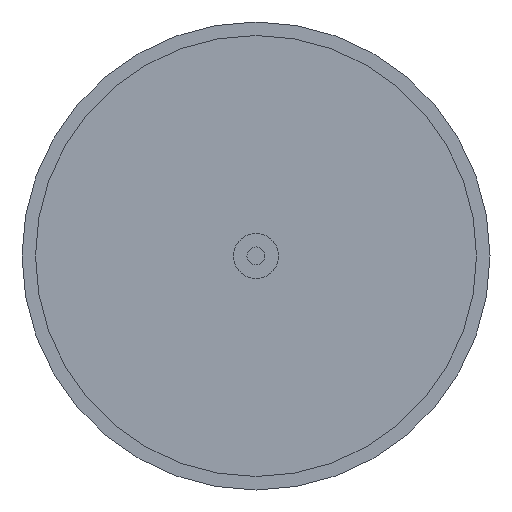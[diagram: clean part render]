
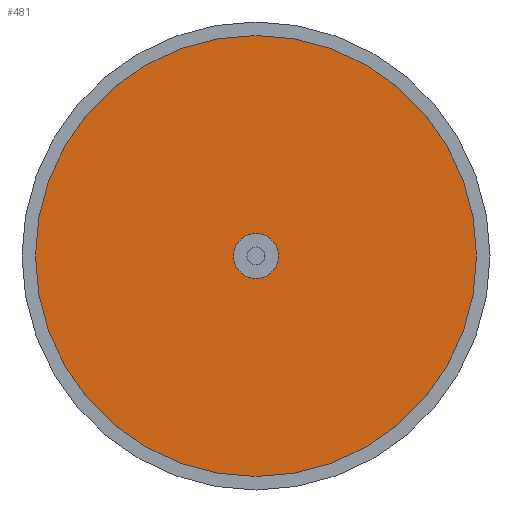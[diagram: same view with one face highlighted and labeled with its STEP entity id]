
A CAD part, front view. The second image highlights one B-rep face of the part: STEP entity #481.
In plain terms, the highlighted planar face has unit normal (0, -1, 0).
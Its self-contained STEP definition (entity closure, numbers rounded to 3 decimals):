
#5 = DIRECTION ( 'NONE',  ( 0., -1., 0. ) ) ;
#25 = CIRCLE ( 'NONE', #102, 122.5 ) ;
#26 = CARTESIAN_POINT ( 'NONE',  ( 0., -12.5, 122.5 ) ) ;
#56 = VERTEX_POINT ( 'NONE', #468 ) ;
#70 = EDGE_CURVE ( 'NONE', #56, #205, #117, .T. ) ;
#94 = DIRECTION ( 'NONE',  ( 0., 0., -1. ) ) ;
#102 = AXIS2_PLACEMENT_3D ( 'NONE', #242, #288, #422 ) ;
#108 = VERTEX_POINT ( 'NONE', #182 ) ;
#117 = CIRCLE ( 'NONE', #571, 12.5 ) ;
#162 = EDGE_CURVE ( 'NONE', #108, #540, #25, .T. ) ;
#176 = DIRECTION ( 'NONE',  ( 0., 1., 0. ) ) ;
#182 = CARTESIAN_POINT ( 'NONE',  ( 0., -12.5, -122.5 ) ) ;
#201 = DIRECTION ( 'NONE',  ( 0., 1., 0. ) ) ;
#205 = VERTEX_POINT ( 'NONE', #522 ) ;
#228 = AXIS2_PLACEMENT_3D ( 'NONE', #270, #234, #404 ) ;
#234 = DIRECTION ( 'NONE',  ( 0., -1., 0. ) ) ;
#242 = CARTESIAN_POINT ( 'NONE',  ( 0., -12.5, 0. ) ) ;
#255 = EDGE_CURVE ( 'NONE', #540, #108, #508, .T. ) ;
#270 = CARTESIAN_POINT ( 'NONE',  ( 0., -12.5, 0. ) ) ;
#277 = ORIENTED_EDGE ( 'NONE', *, *, #255, .F. ) ;
#288 = DIRECTION ( 'NONE',  ( 0., 1., 0. ) ) ;
#290 = ORIENTED_EDGE ( 'NONE', *, *, #604, .F. ) ;
#345 = FACE_OUTER_BOUND ( 'NONE', #376, .T. ) ;
#362 = AXIS2_PLACEMENT_3D ( 'NONE', #590, #176, #391 ) ;
#370 = DIRECTION ( 'NONE',  ( 0., 0., 1. ) ) ;
#372 = CIRCLE ( 'NONE', #228, 12.5 ) ;
#376 = EDGE_LOOP ( 'NONE', ( #466, #277 ) ) ;
#391 = DIRECTION ( 'NONE',  ( 0., 0., 1. ) ) ;
#396 = PLANE ( 'NONE',  #362 ) ;
#397 = AXIS2_PLACEMENT_3D ( 'NONE', #574, #201, #370 ) ;
#404 = DIRECTION ( 'NONE',  ( 0., 0., -1. ) ) ;
#422 = DIRECTION ( 'NONE',  ( 0., 0., 1. ) ) ;
#444 = FACE_BOUND ( 'NONE', #578, .T. ) ;
#465 = CARTESIAN_POINT ( 'NONE',  ( 0., -12.5, 0. ) ) ;
#466 = ORIENTED_EDGE ( 'NONE', *, *, #162, .F. ) ;
#468 = CARTESIAN_POINT ( 'NONE',  ( 0., -12.5, -12.5 ) ) ;
#472 = ORIENTED_EDGE ( 'NONE', *, *, #70, .F. ) ;
#481 = ADVANCED_FACE ( 'NONE', ( #444, #345 ), #396, .F. ) ;
#508 = CIRCLE ( 'NONE', #397, 122.5 ) ;
#522 = CARTESIAN_POINT ( 'NONE',  ( 0., -12.5, 12.5 ) ) ;
#540 = VERTEX_POINT ( 'NONE', #26 ) ;
#571 = AXIS2_PLACEMENT_3D ( 'NONE', #465, #5, #94 ) ;
#574 = CARTESIAN_POINT ( 'NONE',  ( 0., -12.5, 0. ) ) ;
#578 = EDGE_LOOP ( 'NONE', ( #472, #290 ) ) ;
#590 = CARTESIAN_POINT ( 'NONE',  ( 0., -12.5, 0. ) ) ;
#604 = EDGE_CURVE ( 'NONE', #205, #56, #372, .T. ) ;
